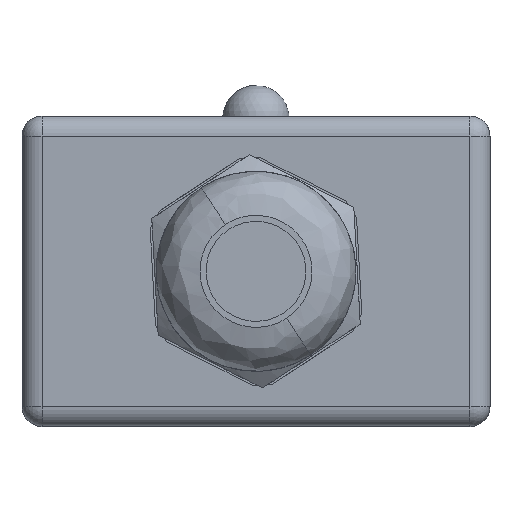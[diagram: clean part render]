
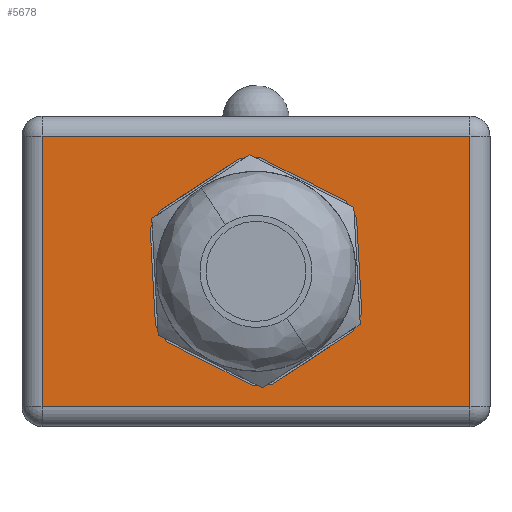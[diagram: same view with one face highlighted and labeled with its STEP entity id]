
A CAD part, front view. The second image highlights one B-rep face of the part: STEP entity #5678.
In plain terms, the highlighted planar face has unit normal (0, -1, 0).
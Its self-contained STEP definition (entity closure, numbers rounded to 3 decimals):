
#21 = VECTOR ( 'NONE', #3197, 1000. ) ;
#55 = EDGE_CURVE ( 'NONE', #1484, #4903, #204, .T. ) ;
#68 = EDGE_CURVE ( 'NONE', #11407, #12504, #1112, .T. ) ;
#73 = ORIENTED_EDGE ( 'NONE', *, *, #9660, .T. ) ;
#129 = DIRECTION ( 'NONE',  ( 0.452, 0., 0.892 ) ) ;
#148 = CARTESIAN_POINT ( 'NONE',  ( -7.26, -35., 16.164 ) ) ;
#150 = DIRECTION ( 'NONE',  ( 0.998, 0., 0.055 ) ) ;
#157 = LINE ( 'NONE', #3990, #3308 ) ;
#204 = LINE ( 'NONE', #12534, #6115 ) ;
#468 = EDGE_CURVE ( 'NONE', #5556, #13126, #2336, .T. ) ;
#749 = LINE ( 'NONE', #8939, #4899 ) ;
#903 = LINE ( 'NONE', #10226, #3820 ) ;
#971 = CARTESIAN_POINT ( 'NONE',  ( 6.719, -35., 16.936 ) ) ;
#1112 = LINE ( 'NONE', #5688, #4907 ) ;
#1341 = LINE ( 'NONE', #9235, #12428 ) ;
#1484 = VERTEX_POINT ( 'NONE', #5944 ) ;
#1740 = EDGE_CURVE ( 'NONE', #13126, #12778, #6092, .T. ) ;
#1771 = EDGE_CURVE ( 'NONE', #4903, #3223, #749, .T. ) ;
#1819 = DIRECTION ( 'NONE',  ( -0.892, 0., 0.452 ) ) ;
#2317 = DIRECTION ( 'NONE',  ( -0.452, 0., -0.892 ) ) ;
#2336 = LINE ( 'NONE', #971, #9487 ) ;
#2446 = CARTESIAN_POINT ( 'NONE',  ( 7.539, -35., 15.68 ) ) ;
#2631 = ORIENTED_EDGE ( 'NONE', *, *, #5129, .T. ) ;
#2980 = ORIENTED_EDGE ( 'NONE', *, *, #13319, .T. ) ;
#3038 = ORIENTED_EDGE ( 'NONE', *, *, #1740, .T. ) ;
#3079 = CARTESIAN_POINT ( 'NONE',  ( -7.539, -35., 7.62 ) ) ;
#3197 = DIRECTION ( 'NONE',  ( -0.055, 0., 0.998 ) ) ;
#3219 = CARTESIAN_POINT ( 'NONE',  ( 16.05, -35., 1.5 ) ) ;
#3223 = VERTEX_POINT ( 'NONE', #14738 ) ;
#3308 = VECTOR ( 'NONE', #1819, 1000. ) ;
#3316 = EDGE_CURVE ( 'NONE', #7477, #7746, #4446, .T. ) ;
#3453 = VECTOR ( 'NONE', #14141, 1000. ) ;
#3524 = VERTEX_POINT ( 'NONE', #11881 ) ;
#3820 = VECTOR ( 'NONE', #8947, 1000. ) ;
#3954 = ORIENTED_EDGE ( 'NONE', *, *, #4646, .T. ) ;
#3990 = CARTESIAN_POINT ( 'NONE',  ( -0.28, -35., 3.106 ) ) ;
#4167 = CARTESIAN_POINT ( 'NONE',  ( -7.539, -35., 7.62 ) ) ;
#4427 = DIRECTION ( 'NONE',  ( 0.547, 0., -0.837 ) ) ;
#4434 = VECTOR ( 'NONE', #5772, 1000. ) ;
#4446 = LINE ( 'NONE', #13631, #7732 ) ;
#4527 = VECTOR ( 'NONE', #150, 1000. ) ;
#4646 = EDGE_CURVE ( 'NONE', #8556, #14312, #903, .T. ) ;
#4816 = VECTOR ( 'NONE', #5355, 1000. ) ;
#4899 = VECTOR ( 'NONE', #7665, 1000. ) ;
#4903 = VERTEX_POINT ( 'NONE', #148 ) ;
#4907 = VECTOR ( 'NONE', #13822, 1000. ) ;
#5129 = EDGE_CURVE ( 'NONE', #3223, #9400, #9336, .T. ) ;
#5298 = LINE ( 'NONE', #4167, #21 ) ;
#5355 = DIRECTION ( 'NONE',  ( 0.892, 0., -0.452 ) ) ;
#5394 = PLANE ( 'NONE',  #12486 ) ;
#5455 = ORIENTED_EDGE ( 'NONE', *, *, #11845, .T. ) ;
#5556 = VERTEX_POINT ( 'NONE', #6987 ) ;
#5590 = CARTESIAN_POINT ( 'NONE',  ( -17.55, -35., 1.5 ) ) ;
#5647 = CARTESIAN_POINT ( 'NONE',  ( -16.05, -35., 1.5 ) ) ;
#5678 = ADVANCED_FACE ( 'NONE', ( #10060, #6526 ), #5394, .F. ) ;
#5688 = CARTESIAN_POINT ( 'NONE',  ( -6.719, -35., 6.364 ) ) ;
#5772 = DIRECTION ( 'NONE',  ( -0.837, 0., -0.547 ) ) ;
#5812 = VERTEX_POINT ( 'NONE', #6458 ) ;
#5868 = CARTESIAN_POINT ( 'NONE',  ( -1.218, -35., 20.112 ) ) ;
#5899 = VECTOR ( 'NONE', #14776, 1000. ) ;
#5944 = CARTESIAN_POINT ( 'NONE',  ( -7.937, -35., 14.826 ) ) ;
#6092 = LINE ( 'NONE', #7299, #3453 ) ;
#6115 = VECTOR ( 'NONE', #129, 1000. ) ;
#6210 = LINE ( 'NONE', #10655, #10512 ) ;
#6458 = CARTESIAN_POINT ( 'NONE',  ( 7.26, -35., 7.136 ) ) ;
#6467 = VERTEX_POINT ( 'NONE', #10298 ) ;
#6526 = FACE_OUTER_BOUND ( 'NONE', #12621, .T. ) ;
#6655 = CARTESIAN_POINT ( 'NONE',  ( 0.28, -35., 20.194 ) ) ;
#6739 = DIRECTION ( 'NONE',  ( 0., 0., 1. ) ) ;
#6987 = CARTESIAN_POINT ( 'NONE',  ( 6.719, -35., 16.936 ) ) ;
#7299 = CARTESIAN_POINT ( 'NONE',  ( 7.539, -35., 15.68 ) ) ;
#7317 = ORIENTED_EDGE ( 'NONE', *, *, #68, .T. ) ;
#7445 = ORIENTED_EDGE ( 'NONE', *, *, #55, .T. ) ;
#7477 = VERTEX_POINT ( 'NONE', #13134 ) ;
#7665 = DIRECTION ( 'NONE',  ( 0.837, 0., 0.547 ) ) ;
#7730 = LINE ( 'NONE', #10443, #4434 ) ;
#7732 = VECTOR ( 'NONE', #7900, 1000. ) ;
#7746 = VERTEX_POINT ( 'NONE', #5647 ) ;
#7900 = DIRECTION ( 'NONE',  ( 0., 0., -1. ) ) ;
#7920 = ORIENTED_EDGE ( 'NONE', *, *, #468, .T. ) ;
#7975 = EDGE_CURVE ( 'NONE', #5812, #3524, #7730, .T. ) ;
#8041 = ORIENTED_EDGE ( 'NONE', *, *, #8269, .T. ) ;
#8269 = EDGE_CURVE ( 'NONE', #7746, #8556, #12232, .T. ) ;
#8433 = CARTESIAN_POINT ( 'NONE',  ( 1.218, -35., 3.188 ) ) ;
#8556 = VERTEX_POINT ( 'NONE', #3219 ) ;
#8939 = CARTESIAN_POINT ( 'NONE',  ( -4.239, -35., 18.138 ) ) ;
#8947 = DIRECTION ( 'NONE',  ( 0., 0., 1. ) ) ;
#8995 = DIRECTION ( 'NONE',  ( 0., 1., 0. ) ) ;
#9235 = CARTESIAN_POINT ( 'NONE',  ( 7.937, -35., 8.474 ) ) ;
#9336 = LINE ( 'NONE', #5868, #4527 ) ;
#9400 = VERTEX_POINT ( 'NONE', #6655 ) ;
#9487 = VECTOR ( 'NONE', #4427, 1000. ) ;
#9660 = EDGE_CURVE ( 'NONE', #3524, #6467, #11898, .T. ) ;
#9734 = LINE ( 'NONE', #9948, #4816 ) ;
#9948 = CARTESIAN_POINT ( 'NONE',  ( 0.28, -35., 20.194 ) ) ;
#10060 = FACE_BOUND ( 'NONE', #11740, .T. ) ;
#10226 = CARTESIAN_POINT ( 'NONE',  ( 16.05, -35., 23.3 ) ) ;
#10298 = CARTESIAN_POINT ( 'NONE',  ( -0.28, -35., 3.106 ) ) ;
#10443 = CARTESIAN_POINT ( 'NONE',  ( 4.239, -35., 5.162 ) ) ;
#10512 = VECTOR ( 'NONE', #10800, 1000. ) ;
#10640 = EDGE_CURVE ( 'NONE', #6467, #11407, #157, .T. ) ;
#10655 = CARTESIAN_POINT ( 'NONE',  ( -17.55, -35., 21.8 ) ) ;
#10712 = CARTESIAN_POINT ( 'NONE',  ( 16.05, -35., 21.8 ) ) ;
#10722 = ORIENTED_EDGE ( 'NONE', *, *, #1771, .T. ) ;
#10800 = DIRECTION ( 'NONE',  ( -1., 0., 0. ) ) ;
#11407 = VERTEX_POINT ( 'NONE', #14546 ) ;
#11740 = EDGE_LOOP ( 'NONE', ( #2631, #2980, #7920, #3038, #13828, #14895, #73, #14069, #7317, #14436, #7445, #10722 ) ) ;
#11845 = EDGE_CURVE ( 'NONE', #14312, #7477, #6210, .T. ) ;
#11881 = CARTESIAN_POINT ( 'NONE',  ( 1.218, -35., 3.188 ) ) ;
#11898 = LINE ( 'NONE', #8433, #14292 ) ;
#12232 = LINE ( 'NONE', #5590, #5899 ) ;
#12389 = CARTESIAN_POINT ( 'NONE',  ( -17.55, -35., 23.3 ) ) ;
#12428 = VECTOR ( 'NONE', #2317, 1000. ) ;
#12486 = AXIS2_PLACEMENT_3D ( 'NONE', #12389, #8995, #6739 ) ;
#12504 = VERTEX_POINT ( 'NONE', #3079 ) ;
#12534 = CARTESIAN_POINT ( 'NONE',  ( -7.937, -35., 14.826 ) ) ;
#12621 = EDGE_LOOP ( 'NONE', ( #13978, #8041, #3954, #5455 ) ) ;
#12677 = EDGE_CURVE ( 'NONE', #12778, #5812, #1341, .T. ) ;
#12778 = VERTEX_POINT ( 'NONE', #12993 ) ;
#12993 = CARTESIAN_POINT ( 'NONE',  ( 7.937, -35., 8.474 ) ) ;
#13036 = DIRECTION ( 'NONE',  ( -0.998, 0., -0.055 ) ) ;
#13126 = VERTEX_POINT ( 'NONE', #2446 ) ;
#13134 = CARTESIAN_POINT ( 'NONE',  ( -16.05, -35., 21.8 ) ) ;
#13319 = EDGE_CURVE ( 'NONE', #9400, #5556, #9734, .T. ) ;
#13631 = CARTESIAN_POINT ( 'NONE',  ( -16.05, -35., 23.3 ) ) ;
#13822 = DIRECTION ( 'NONE',  ( -0.547, 0., 0.837 ) ) ;
#13828 = ORIENTED_EDGE ( 'NONE', *, *, #12677, .T. ) ;
#13978 = ORIENTED_EDGE ( 'NONE', *, *, #3316, .T. ) ;
#14069 = ORIENTED_EDGE ( 'NONE', *, *, #10640, .T. ) ;
#14141 = DIRECTION ( 'NONE',  ( 0.055, 0., -0.998 ) ) ;
#14156 = EDGE_CURVE ( 'NONE', #12504, #1484, #5298, .T. ) ;
#14292 = VECTOR ( 'NONE', #13036, 1000. ) ;
#14312 = VERTEX_POINT ( 'NONE', #10712 ) ;
#14436 = ORIENTED_EDGE ( 'NONE', *, *, #14156, .T. ) ;
#14546 = CARTESIAN_POINT ( 'NONE',  ( -6.719, -35., 6.364 ) ) ;
#14738 = CARTESIAN_POINT ( 'NONE',  ( -1.218, -35., 20.112 ) ) ;
#14776 = DIRECTION ( 'NONE',  ( 1., 0., 0. ) ) ;
#14895 = ORIENTED_EDGE ( 'NONE', *, *, #7975, .T. ) ;
